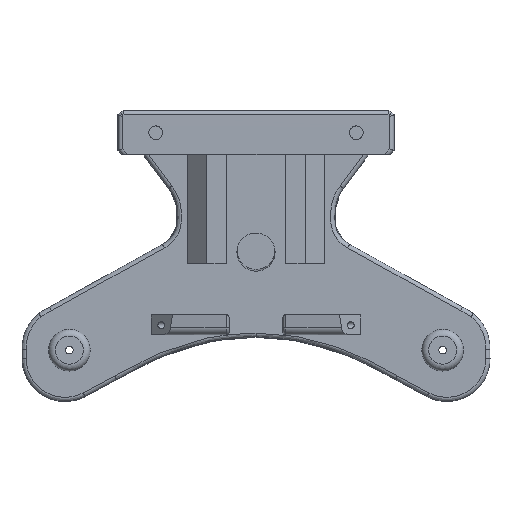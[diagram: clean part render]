
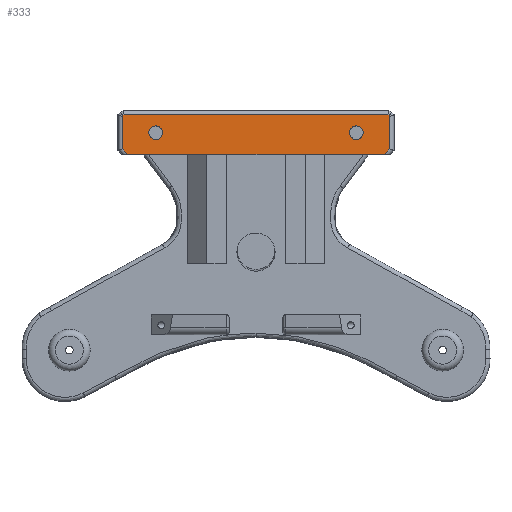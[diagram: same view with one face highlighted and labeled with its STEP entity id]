
A CAD part, top view. The second image highlights one B-rep face of the part: STEP entity #333.
In plain terms, the highlighted planar face has unit normal (0, 0, 1).
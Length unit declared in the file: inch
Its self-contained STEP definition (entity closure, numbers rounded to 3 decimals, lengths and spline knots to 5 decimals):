
#333=ADVANCED_FACE('',(#1039,#1040,#1041),#488,.T.);
#488=PLANE('',#2781);
#627=B_SPLINE_CURVE_WITH_KNOTS('',3,(#4751,#4752,#4753,#4754,#4755,#4756,
#4757,#4758,#4759,#4760,#4761,#4762,#4763,#4764,#4765,#4766,#4767,#4768),
 .UNSPECIFIED.,.T.,.F.,(2,2,2,2,2,2,2,2,2,2,2),(-0.125,0.,0.125,0.25,0.375,
0.5,0.625,0.75,0.875,1.,1.125),.UNSPECIFIED.);
#628=B_SPLINE_CURVE_WITH_KNOTS('',3,(#4770,#4771,#4772,#4773,#4774,#4775,
#4776,#4777,#4778,#4779,#4780,#4781,#4782,#4783,#4784,#4785,#4786,#4787),
 .UNSPECIFIED.,.T.,.F.,(2,2,2,2,2,2,2,2,2,2,2),(-0.125,0.,0.125,0.25,0.375,
0.5,0.625,0.75,0.875,1.,1.125),.UNSPECIFIED.);
#751=LINE('',#4789,#934);
#752=LINE('',#4792,#935);
#753=LINE('',#4794,#936);
#754=LINE('',#4796,#937);
#755=LINE('',#4798,#938);
#756=LINE('',#4800,#939);
#757=LINE('',#4802,#940);
#758=LINE('',#4804,#941);
#759=LINE('',#4806,#942);
#760=LINE('',#4808,#943);
#934=VECTOR('',#3107,1.);
#935=VECTOR('',#3108,1.);
#936=VECTOR('',#3109,1.);
#937=VECTOR('',#3110,1.);
#938=VECTOR('',#3111,1.);
#939=VECTOR('',#3112,1.);
#940=VECTOR('',#3113,1.);
#941=VECTOR('',#3114,1.);
#942=VECTOR('',#3115,1.);
#943=VECTOR('',#3116,1.);
#1039=FACE_BOUND('',#1138,.T.);
#1040=FACE_BOUND('',#1139,.T.);
#1041=FACE_BOUND('',#1140,.T.);
#1138=EDGE_LOOP('',(#1515));
#1139=EDGE_LOOP('',(#1516));
#1140=EDGE_LOOP('',(#1517,#1518,#1519,#1520,#1521,#1522,#1523,#1524,#1525,
#1526));
#1515=ORIENTED_EDGE('',*,*,#2479,.F.);
#1516=ORIENTED_EDGE('',*,*,#2480,.F.);
#1517=ORIENTED_EDGE('',*,*,#2481,.T.);
#1518=ORIENTED_EDGE('',*,*,#2482,.T.);
#1519=ORIENTED_EDGE('',*,*,#2483,.T.);
#1520=ORIENTED_EDGE('',*,*,#2484,.T.);
#1521=ORIENTED_EDGE('',*,*,#2485,.T.);
#1522=ORIENTED_EDGE('',*,*,#2486,.T.);
#1523=ORIENTED_EDGE('',*,*,#2487,.T.);
#1524=ORIENTED_EDGE('',*,*,#2488,.T.);
#1525=ORIENTED_EDGE('',*,*,#2489,.T.);
#1526=ORIENTED_EDGE('',*,*,#2490,.T.);
#2210=VERTEX_POINT('',#4769);
#2211=VERTEX_POINT('',#4788);
#2212=VERTEX_POINT('',#4790);
#2213=VERTEX_POINT('',#4791);
#2214=VERTEX_POINT('',#4793);
#2215=VERTEX_POINT('',#4795);
#2216=VERTEX_POINT('',#4797);
#2217=VERTEX_POINT('',#4799);
#2218=VERTEX_POINT('',#4801);
#2219=VERTEX_POINT('',#4803);
#2220=VERTEX_POINT('',#4805);
#2221=VERTEX_POINT('',#4807);
#2479=EDGE_CURVE('',#2210,#2210,#627,.T.);
#2480=EDGE_CURVE('',#2211,#2211,#628,.T.);
#2481=EDGE_CURVE('',#2212,#2213,#751,.T.);
#2482=EDGE_CURVE('',#2213,#2214,#752,.T.);
#2483=EDGE_CURVE('',#2214,#2215,#753,.T.);
#2484=EDGE_CURVE('',#2215,#2216,#754,.T.);
#2485=EDGE_CURVE('',#2216,#2217,#755,.T.);
#2486=EDGE_CURVE('',#2217,#2218,#756,.T.);
#2487=EDGE_CURVE('',#2218,#2219,#757,.T.);
#2488=EDGE_CURVE('',#2219,#2220,#758,.T.);
#2489=EDGE_CURVE('',#2220,#2221,#759,.T.);
#2490=EDGE_CURVE('',#2221,#2212,#760,.T.);
#2781=AXIS2_PLACEMENT_3D('',#4809,#3117,#3118);
#3107=DIRECTION('',(1.,0.,0.));
#3108=DIRECTION('',(0.712,0.702,0.));
#3109=DIRECTION('',(0.,1.,0.));
#3110=DIRECTION('',(-0.6,0.8,0.));
#3111=DIRECTION('',(-0.893,0.45,0.));
#3112=DIRECTION('',(-1.,0.,0.));
#3113=DIRECTION('',(-0.893,-0.45,0.));
#3114=DIRECTION('',(-0.6,-0.8,0.));
#3115=DIRECTION('',(0.,-1.,0.));
#3116=DIRECTION('',(0.712,-0.702,0.));
#3117=DIRECTION('',(0.,0.,1.));
#3118=DIRECTION('',(-0.029,-1.,0.));
#4751=CARTESIAN_POINT('',(4.24508,3.11026,4.18087));
#4752=CARTESIAN_POINT('',(4.24508,3.16179,4.18087));
#4753=CARTESIAN_POINT('',(4.23447,3.1874,4.18087));
#4754=CARTESIAN_POINT('',(4.19803,3.22384,4.18087));
#4755=CARTESIAN_POINT('',(4.17242,3.23445,4.18087));
#4756=CARTESIAN_POINT('',(4.12089,3.23445,4.18087));
#4757=CARTESIAN_POINT('',(4.09528,3.22384,4.18087));
#4758=CARTESIAN_POINT('',(4.05884,3.1874,4.18087));
#4759=CARTESIAN_POINT('',(4.04823,3.16179,4.18087));
#4760=CARTESIAN_POINT('',(4.04823,3.11026,4.18087));
#4761=CARTESIAN_POINT('',(4.05884,3.08465,4.18087));
#4762=CARTESIAN_POINT('',(4.09528,3.04821,4.18087));
#4763=CARTESIAN_POINT('',(4.12089,3.0376,4.18087));
#4764=CARTESIAN_POINT('',(4.17242,3.0376,4.18087));
#4765=CARTESIAN_POINT('',(4.19803,3.04821,4.18087));
#4766=CARTESIAN_POINT('',(4.23447,3.08465,4.18087));
#4767=CARTESIAN_POINT('',(4.24508,3.11026,4.18087));
#4768=CARTESIAN_POINT('',(4.24508,3.16179,4.18087));
#4769=CARTESIAN_POINT('',(4.24508,3.13602,4.18081));
#4770=CARTESIAN_POINT('',(1.34583,3.11026,4.18087));
#4771=CARTESIAN_POINT('',(1.34583,3.16179,4.18087));
#4772=CARTESIAN_POINT('',(1.33522,3.1874,4.18087));
#4773=CARTESIAN_POINT('',(1.29878,3.22384,4.18087));
#4774=CARTESIAN_POINT('',(1.27317,3.23445,4.18087));
#4775=CARTESIAN_POINT('',(1.22163,3.23445,4.18087));
#4776=CARTESIAN_POINT('',(1.19602,3.22384,4.18087));
#4777=CARTESIAN_POINT('',(1.15958,3.1874,4.18087));
#4778=CARTESIAN_POINT('',(1.14898,3.16179,4.18087));
#4779=CARTESIAN_POINT('',(1.14898,3.11026,4.18087));
#4780=CARTESIAN_POINT('',(1.15958,3.08465,4.18087));
#4781=CARTESIAN_POINT('',(1.19602,3.04821,4.18087));
#4782=CARTESIAN_POINT('',(1.22163,3.0376,4.18087));
#4783=CARTESIAN_POINT('',(1.27317,3.0376,4.18087));
#4784=CARTESIAN_POINT('',(1.29878,3.04821,4.18087));
#4785=CARTESIAN_POINT('',(1.33522,3.08465,4.18087));
#4786=CARTESIAN_POINT('',(1.34583,3.11026,4.18087));
#4787=CARTESIAN_POINT('',(1.34583,3.16179,4.18087));
#4788=CARTESIAN_POINT('',(1.34583,3.13602,4.18081));
#4789=CARTESIAN_POINT('',(2.69665,2.82209,4.18075));
#4790=CARTESIAN_POINT('',(0.84323,2.82209,4.18075));
#4791=CARTESIAN_POINT('',(4.55008,2.82209,4.18075));
#4792=CARTESIAN_POINT('',(4.64942,2.91998,4.18075));
#4793=CARTESIAN_POINT('',(4.63181,2.90263,4.18075));
#4794=CARTESIAN_POINT('',(4.63181,3.39378,4.18075));
#4795=CARTESIAN_POINT('',(4.63181,3.37409,4.18075));
#4796=CARTESIAN_POINT('',(4.61312,3.39901,4.18075));
#4797=CARTESIAN_POINT('',(4.62141,3.38795,4.18075));
#4798=CARTESIAN_POINT('',(4.58896,3.40432,4.18075));
#4799=CARTESIAN_POINT('',(4.6015,3.39799,4.18075));
#4800=CARTESIAN_POINT('',(0.77776,3.39799,4.18075));
#4801=CARTESIAN_POINT('',(0.79181,3.39799,4.18075));
#4802=CARTESIAN_POINT('',(0.75955,3.38172,4.18075));
#4803=CARTESIAN_POINT('',(0.77189,3.38795,4.18075));
#4804=CARTESIAN_POINT('',(0.74968,3.35834,4.18075));
#4805=CARTESIAN_POINT('',(0.7615,3.37409,4.18075));
#4806=CARTESIAN_POINT('',(0.7615,2.87791,4.18075));
#4807=CARTESIAN_POINT('',(0.7615,2.90263,4.18075));
#4808=CARTESIAN_POINT('',(0.80054,2.86415,4.18075));
#4809=CARTESIAN_POINT('',(2.69665,2.82209,4.18075));
